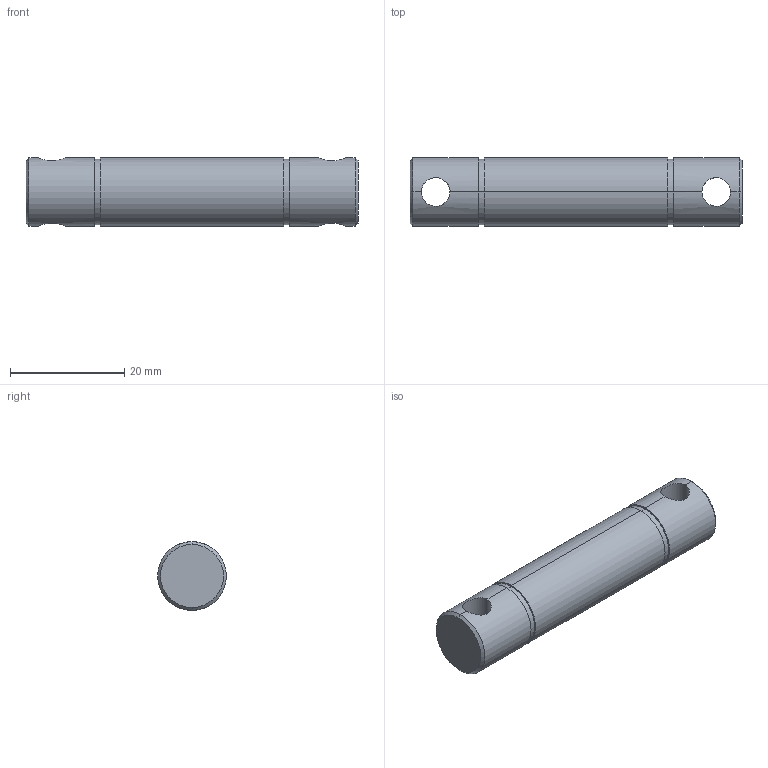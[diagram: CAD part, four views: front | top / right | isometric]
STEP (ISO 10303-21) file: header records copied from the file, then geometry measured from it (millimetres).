
FILE_DESCRIPTION (( 'STEP AP214' ), '1' );
FILE_NAME ('084.030.213.STEP', '2021-02-05T15:55:22', ( '' ), ( '' ), 'SwSTEP 2.0', 'SolidWorks 2018', '' );
FILE_SCHEMA (( 'AUTOMOTIVE_DESIGN' ));
Length unit declared in the file: millimetre
Products named in the file (1): 084.030.213
Bounding box: 58 x 12 x 12 mm (x, y, z)
Volume: 6069.4 mm3; surface area: 2703.2 mm2
Topology: 1 solids, 1 shells, 24 faces, 54 edges, 32 vertices
Faces by surface type: cylinder 14, plane 6, cone 4
Entity records: 976 total; most frequent: CARTESIAN_POINT 351, DIRECTION 120, ORIENTED_EDGE 108, EDGE_CURVE 54, AXIS2_PLACEMENT_3D 49, VERTEX_POINT 32, EDGE_LOOP 28, CIRCLE 24
